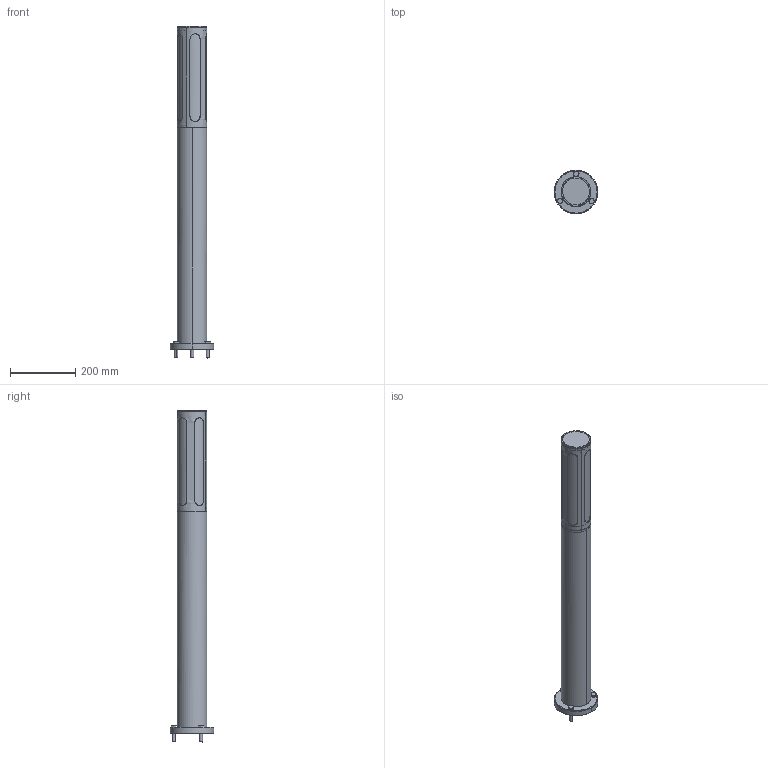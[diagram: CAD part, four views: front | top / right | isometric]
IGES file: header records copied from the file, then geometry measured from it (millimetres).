
Start section: SolidWorks IGES file using NURBS representation for surfaces
Global section: file name: Z:\Modele 3D_WWW\_KOLEKCJE_WWW\MEKONG\MEKONG-4698\MEKONG-4698.IGS; native system: SolidWorks 2021; preprocessor: SolidWorks 2021; author: gabriela.tworek; date: 211102.133437; units: millimetre
Bounding box: 133 x 133 x 1015.31 mm (x, y, z)
Surface area: 669263.9 mm2 (no closed solid volume)
Topology: 0 solids, 0 shells, 147 faces, 4110 edges, 4110 vertices
Faces by surface type: bspline 147
